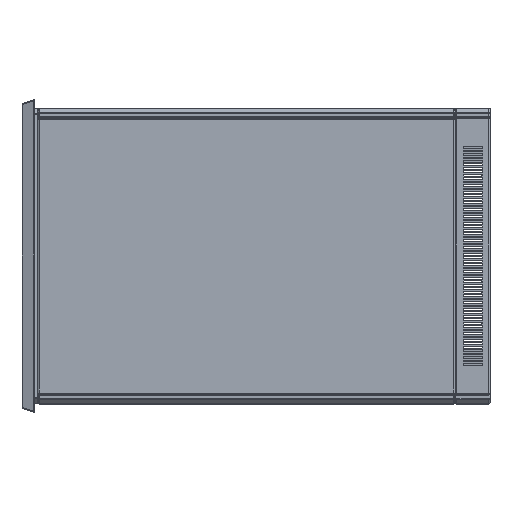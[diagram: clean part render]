
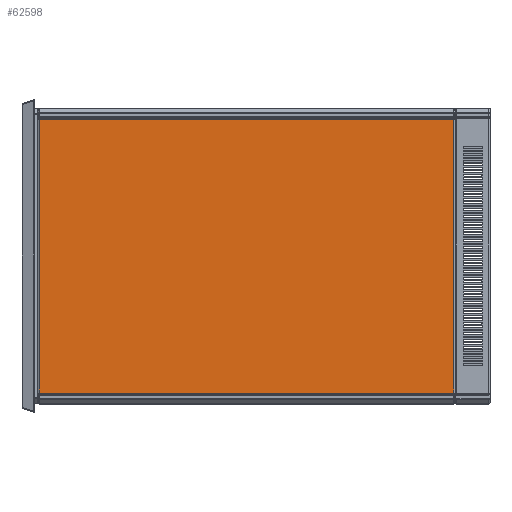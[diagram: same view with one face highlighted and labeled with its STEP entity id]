
A CAD part, left-side view. The second image highlights one B-rep face of the part: STEP entity #62598.
In plain terms, the highlighted planar face has unit normal (-1, 0, 0) as drawn and (0, 0, -1) by its records, which use the part's own axes.
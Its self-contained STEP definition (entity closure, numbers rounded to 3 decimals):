
#1370 = ORIENTED_EDGE ( 'NONE', *, *, #9309, .T. ) ;
#2326 = VECTOR ( 'NONE', #113706, 1000. ) ;
#3605 = EDGE_CURVE ( 'NONE', #140368, #80654, #120088, .T. ) ;
#9309 = EDGE_CURVE ( 'NONE', #80654, #87465, #93475, .T. ) ;
#13356 = CARTESIAN_POINT ( 'NONE',  ( 0., 0., 0. ) ) ;
#14066 = DIRECTION ( 'NONE',  ( 1., 0., 0. ) ) ;
#24185 = PLANE ( 'NONE',  #90586 ) ;
#25772 = EDGE_LOOP ( 'NONE', ( #81935, #69105, #56915, #1370 ) ) ;
#31922 = LINE ( 'NONE', #95470, #55283 ) ;
#36139 = VECTOR ( 'NONE', #83515, 1000. ) ;
#45847 = CARTESIAN_POINT ( 'NONE',  ( -397.5, 602.5, 0. ) ) ;
#50130 = CARTESIAN_POINT ( 'NONE',  ( -397.5, 0., 0. ) ) ;
#53157 = LINE ( 'NONE', #106594, #36139 ) ;
#55283 = VECTOR ( 'NONE', #117851, 1000. ) ;
#56915 = ORIENTED_EDGE ( 'NONE', *, *, #3605, .T. ) ;
#62598 = ADVANCED_FACE ( 'NONE', ( #123059 ), #24185, .F. ) ;
#67451 = EDGE_CURVE ( 'NONE', #87465, #69821, #53157, .T. ) ;
#68880 = DIRECTION ( 'NONE',  ( 0., 0., 1. ) ) ;
#69105 = ORIENTED_EDGE ( 'NONE', *, *, #71614, .T. ) ;
#69821 = VERTEX_POINT ( 'NONE', #100070 ) ;
#71614 = EDGE_CURVE ( 'NONE', #69821, #140368, #31922, .T. ) ;
#77595 = CARTESIAN_POINT ( 'NONE',  ( 397.5, -602.5, 0. ) ) ;
#80654 = VERTEX_POINT ( 'NONE', #95764 ) ;
#81935 = ORIENTED_EDGE ( 'NONE', *, *, #67451, .T. ) ;
#83515 = DIRECTION ( 'NONE',  ( 1., 0., 0. ) ) ;
#85450 = VECTOR ( 'NONE', #107096, 1000. ) ;
#86892 = CARTESIAN_POINT ( 'NONE',  ( 0., -602.5, 0. ) ) ;
#87465 = VERTEX_POINT ( 'NONE', #45847 ) ;
#90586 = AXIS2_PLACEMENT_3D ( 'NONE', #13356, #68880, #14066 ) ;
#93475 = LINE ( 'NONE', #50130, #2326 ) ;
#95470 = CARTESIAN_POINT ( 'NONE',  ( 397.5, 0., 0. ) ) ;
#95764 = CARTESIAN_POINT ( 'NONE',  ( -397.5, -602.5, 0. ) ) ;
#100070 = CARTESIAN_POINT ( 'NONE',  ( 397.5, 602.5, 0. ) ) ;
#106594 = CARTESIAN_POINT ( 'NONE',  ( 0., 602.5, 0. ) ) ;
#107096 = DIRECTION ( 'NONE',  ( -1., 0., 0. ) ) ;
#113706 = DIRECTION ( 'NONE',  ( 0., 1., 0. ) ) ;
#117851 = DIRECTION ( 'NONE',  ( 0., -1., 0. ) ) ;
#120088 = LINE ( 'NONE', #86892, #85450 ) ;
#123059 = FACE_OUTER_BOUND ( 'NONE', #25772, .T. ) ;
#140368 = VERTEX_POINT ( 'NONE', #77595 ) ;
